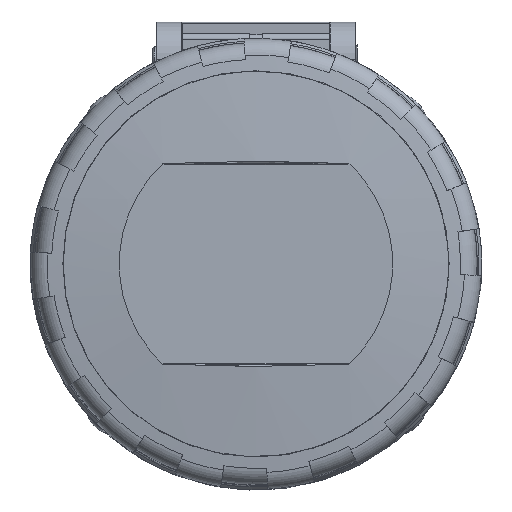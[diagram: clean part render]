
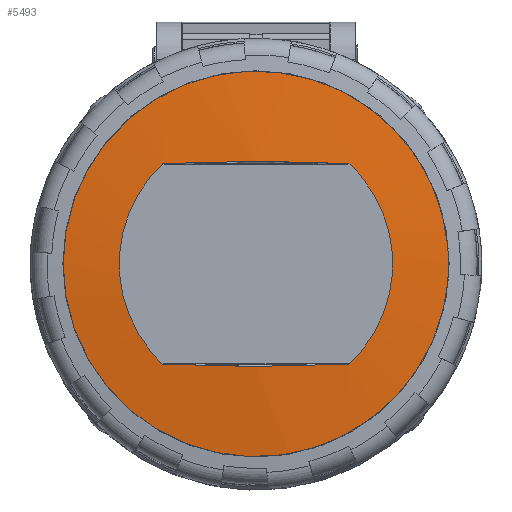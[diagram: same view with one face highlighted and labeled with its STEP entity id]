
A CAD part, top view. The second image highlights one B-rep face of the part: STEP entity #5493.
In plain terms, the highlighted spherical face has radius 256 mm.
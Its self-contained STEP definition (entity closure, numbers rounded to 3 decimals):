
#515=FACE_BOUND('',#8152,.T.);
#516=FACE_BOUND('',#8153,.T.);
#907=SPHERICAL_SURFACE('',#22476,256.);
#1539=B_SPLINE_CURVE_WITH_KNOTS('',3,(#38254,#38255,#38256,#38257,#38258,
#38259),.UNSPECIFIED.,.F.,.F.,(4,2,4),(0.,0.5,1.),.UNSPECIFIED.);
#1540=B_SPLINE_CURVE_WITH_KNOTS('',3,(#38262,#38263,#38264,#38265),
 .UNSPECIFIED.,.F.,.F.,(4,4),(0.,1.),.UNSPECIFIED.);
#1541=B_SPLINE_CURVE_WITH_KNOTS('',3,(#38267,#38268,#38269,#38270,#38271,
#38272),.UNSPECIFIED.,.F.,.F.,(4,2,4),(0.,0.5,1.),.UNSPECIFIED.);
#1542=B_SPLINE_CURVE_WITH_KNOTS('',3,(#38274,#38275,#38276,#38277),
 .UNSPECIFIED.,.F.,.F.,(4,4),(0.,1.),.UNSPECIFIED.);
#5493=ADVANCED_FACE('',(#515,#516),#907,.T.);
#8152=EDGE_LOOP('',(#12421,#12422,#12423,#12424));
#8153=EDGE_LOOP('',(#12425));
#12421=ORIENTED_EDGE('',*,*,#18668,.F.);
#12422=ORIENTED_EDGE('',*,*,#18669,.F.);
#12423=ORIENTED_EDGE('',*,*,#18670,.F.);
#12424=ORIENTED_EDGE('',*,*,#18671,.F.);
#12425=ORIENTED_EDGE('',*,*,#18672,.T.);
#16103=VERTEX_POINT('',#38260);
#16104=VERTEX_POINT('',#38261);
#16105=VERTEX_POINT('',#38266);
#16106=VERTEX_POINT('',#38273);
#16107=VERTEX_POINT('',#38279);
#18668=EDGE_CURVE('',#16103,#16104,#1539,.T.);
#18669=EDGE_CURVE('',#16105,#16103,#1540,.T.);
#18670=EDGE_CURVE('',#16106,#16105,#1541,.T.);
#18671=EDGE_CURVE('',#16104,#16106,#1542,.T.);
#18672=EDGE_CURVE('',#16107,#16107,#20546,.T.);
#20546=CIRCLE('',#22475,31.1);
#22475=AXIS2_PLACEMENT_3D('',#38278,#27243,#27244);
#22476=AXIS2_PLACEMENT_3D('',#38280,#27245,#27246);
#27243=DIRECTION('',(0.,0.,1.));
#27244=DIRECTION('',(0.,-1.,0.));
#27245=DIRECTION('',(0.,-1.,0.));
#27246=DIRECTION('',(1.,0.,0.));
#38254=CARTESIAN_POINT('',(14.978,-12.219,48.986));
#38255=CARTESIAN_POINT('',(19.428,-8.094,48.986));
#38256=CARTESIAN_POINT('',(22.033,-2.126,48.986));
#38257=CARTESIAN_POINT('',(22.033,10.008,48.986));
#38258=CARTESIAN_POINT('',(19.429,15.975,48.986));
#38259=CARTESIAN_POINT('',(14.978,20.1,48.986));
#38260=CARTESIAN_POINT('',(14.978,-12.219,48.986));
#38261=CARTESIAN_POINT('',(14.978,20.1,48.986));
#38262=CARTESIAN_POINT('',(-14.98,-12.219,48.986));
#38263=CARTESIAN_POINT('',(-5.011,-12.685,49.542));
#38264=CARTESIAN_POINT('',(5.01,-12.685,49.542));
#38265=CARTESIAN_POINT('',(14.978,-12.219,48.986));
#38266=CARTESIAN_POINT('',(-14.98,-12.219,48.986));
#38267=CARTESIAN_POINT('',(-14.98,20.1,48.986));
#38268=CARTESIAN_POINT('',(-19.43,15.976,48.986));
#38269=CARTESIAN_POINT('',(-22.035,10.008,48.986));
#38270=CARTESIAN_POINT('',(-22.035,-2.126,48.986));
#38271=CARTESIAN_POINT('',(-19.431,-8.093,48.986));
#38272=CARTESIAN_POINT('',(-14.98,-12.219,48.986));
#38273=CARTESIAN_POINT('',(-14.98,20.1,48.986));
#38274=CARTESIAN_POINT('',(14.978,20.1,48.986));
#38275=CARTESIAN_POINT('',(5.01,20.567,49.542));
#38276=CARTESIAN_POINT('',(-5.011,20.567,49.542));
#38277=CARTESIAN_POINT('',(-14.98,20.1,48.986));
#38278=CARTESIAN_POINT('',(-0.001,3.941,48.04));
#38279=CARTESIAN_POINT('',(-0.001,-27.159,48.04));
#38280=CARTESIAN_POINT('',(-0.001,3.941,-206.064));
